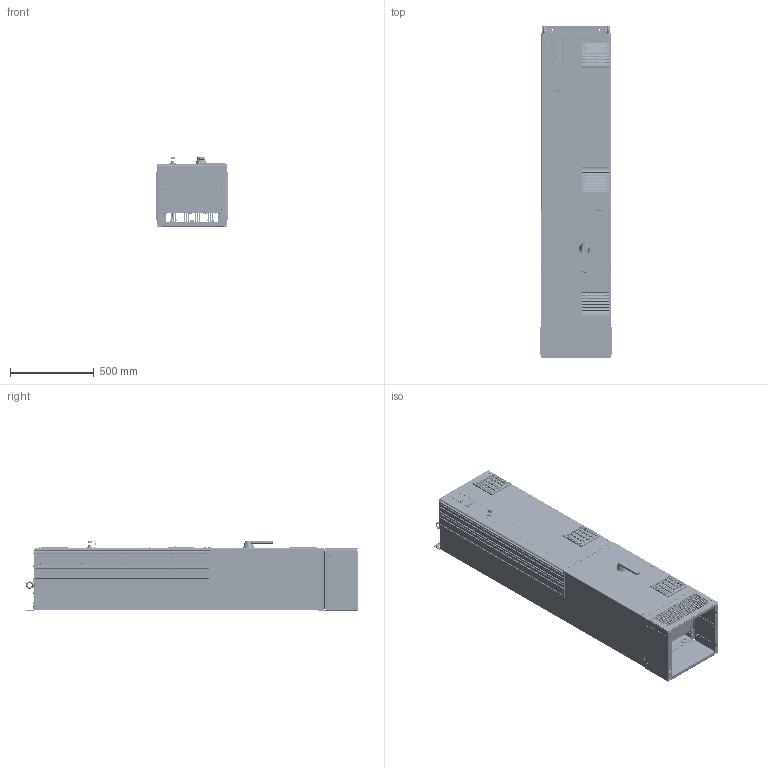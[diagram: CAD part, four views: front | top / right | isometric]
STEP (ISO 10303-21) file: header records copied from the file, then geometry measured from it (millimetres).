
FILE_DESCRIPTION((''),'2;1');
FILE_NAME('P454-1087_ASM','2014-08-05T',('U251643'),('Danfoss Power Electronics'),'PRO/ENGINEER BY PARAMETRIC TECHNOLOGY CORPORATION, 2013050','PRO/ENGINEER BY PARAMETRIC TECHNOLOGY CORPORATION, 2013050','');
FILE_SCHEMA(('CONFIG_CONTROL_DESIGN','GEOMETRIC_VALIDATION_PROPERTIES_MIM'));
Products named in the file (204): 177G6046; FH-M5-12-ZI; FH-M8-20-ZI; SS-M5-2-ZI; S-M10-1-ZI; 177G6046_ASM; 177G6090; TPS-5MM-10; 177G6090_ASM; 177G6079; PEM_N10-M5-1-ZI; 177G6079_ASM; 177G5941; 177G5940; 26513; P454-1198_ASM; 177G6048; FH-M5-8-ZI; FH-M5-10-ZI; FH-M8-15-ZI; HFH-M10-20-ZI; 177G6048_ASM; 177G6028; SS-M5-1-ZI; 177G6028_ASM; 177G6029; 177G6029_ASM; SF-5-16-ZI; 177G6047_ASM; 177G5927; 681X9143; 26516; 177G6690; 177G6690_ASM; 177G6691; 177G3998; 177G3998_ASM; 177G5903; HFH-M10-35-ZI; 177G5903_ASM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
Assembly tree (750 placements, depth 6):
  P454-1087_ASM
    177G6046_ASM
      177G6046
      FH-M5-12-ZI  x21
      FH-M8-20-ZI  x2
      SS-M5-2-ZI  x26
      S-M10-1-ZI  x2
    P454-1198_ASM
      177G6090_ASM
        177G6090
        FH-M5-12-ZI  x2
        SS-M5-2-ZI  x2
        TPS-5MM-10  x2
      177G6079_ASM
        177G6079
        PEM_N10-M5-1-ZI
      177G5941
      177G5940
      26513  x2
    177G6047_ASM
      177G6048_ASM
        177G6048
        FH-M5-8-ZI  x5
        FH-M5-10-ZI  x9
        FH-M8-15-ZI  x2
        HFH-M10-20-ZI  x4
        SS-M5-2-ZI  x6
      177G6028_ASM
        177G6028
        SS-M5-1-ZI
      177G6029_ASM
        177G6029
        SS-M5-1-ZI
      SF-5-16-ZI  x4
    177G5927  x2
    26513  x37
    681X9143  x27
    26516  x6
    177G6690_ASM
      177G6690
    177G6691
    177G3998_ASM
      177G3998
    177G5903_ASM  x3
      177G5903
      HFH-M10-35-ZI
    177A0062
    27652_ASSY_ASM  x5
      27652_ASSY
      M5X0_8-MOLD-IN-INSERT-NUT
      M5X0_8X20-MOLD-IN-INSERT-BOLT
    177G1992  x5
    177G4511  x5
    177G4265
    177G5904_ASM  x2
      177G5904
      HFH-M10-35-ZI
    26515  x2
    P454-1176_ASM
      177G6081_ASM
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Bounding box: 424.6 x 1978.49 x 421.29 mm (x, y, z)
Volume: 21801328.3 mm3; surface area: 14318634.3 mm2
Topology: 728 solids, 784 shells, 34320 faces, 89270 edges, 57222 vertices
Faces by surface type: plane 19974, cylinder 8712, bspline 2154, cone 1712, torus 1389, sphere 201, revolution 144, extrusion 34
Entity records: 744586 total; most frequent: CARTESIAN_POINT 166366, ORIENTED_EDGE 94704, DIRECTION 90205, EDGE_CURVE 47839, PRESENTATION_STYLE_ASSIGNMENT 36861, STYLED_ITEM 36728, CURVE_STYLE 36073, VECTOR 32581
